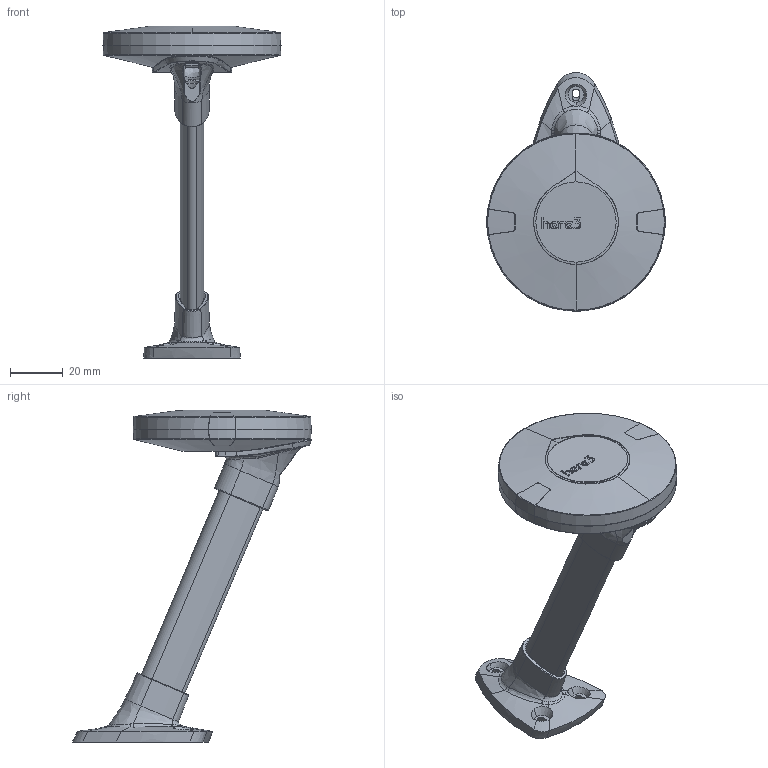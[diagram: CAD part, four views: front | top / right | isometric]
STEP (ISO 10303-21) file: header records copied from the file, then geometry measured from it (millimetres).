
FILE_DESCRIPTION((''),'2;1');
FILE_NAME('GPS_HERE3_ASM','2020-08-01T13:38:11',('mpeng'),(''),'CREO PARAMETRIC BY PTC INC, 2019080','CREO PARAMETRIC BY PTC INC, 2019080','');
FILE_SCHEMA(('CONFIG_CONTROL_DESIGN'));
Length unit declared in the file: millimetre
Products named in the file (15): PWA_HERE2; PWA_SUB_ASSY_ASM; GPS_HERE3_LED_LENS; GPS_HERE3_BTM_CASE; GPS_HERE3_TOCASE; NUT_M2-5MM; GPS_HERE3_TOCASE_W_NUT_ASM; O-RING_BOSS; O-RING_CABLE; GPS_HERE3_HOLDER_BASE23D; GPS_HERE3_HOLDER_HEX; ARM_TEARDROPPED_9_18MM_23D; SCREW_M2-5MM_L7MM; HERE3_HOLDER_23D_ASM; GPS_HERE3_ASM
Assembly tree (15 placements, depth 3):
  GPS_HERE3_ASM
    PWA_SUB_ASSY_ASM
      PWA_HERE2
    GPS_HERE3_LED_LENS  x2
    GPS_HERE3_BTM_CASE
    GPS_HERE3_TOCASE_W_NUT_ASM
      GPS_HERE3_TOCASE
      NUT_M2-5MM
    O-RING_BOSS
    O-RING_CABLE
    HERE3_HOLDER_23D_ASM
      GPS_HERE3_HOLDER_BASE23D
      GPS_HERE3_HOLDER_HEX
      ARM_TEARDROPPED_9_18MM_23D
      SCREW_M2-5MM_L7MM
Bounding box: 67.71 x 90.84 x 126.06 mm (x, y, z)
Volume: 35807.9 mm3; surface area: 47455.4 mm2
Topology: 12 solids, 12 shells, 1774 faces, 4848 edges, 3097 vertices
Faces by surface type: plane 738, cone 324, bspline 298, cylinder 252, torus 88, extrusion 71, sphere 3
Entity records: 67374 total; most frequent: CARTESIAN_POINT 28737, ORIENTED_EDGE 8898, DIRECTION 6803, EDGE_CURVE 4449, VERTEX_POINT 2845, AXIS2_PLACEMENT_3D 2458, VECTOR 1887, LINE 1830
